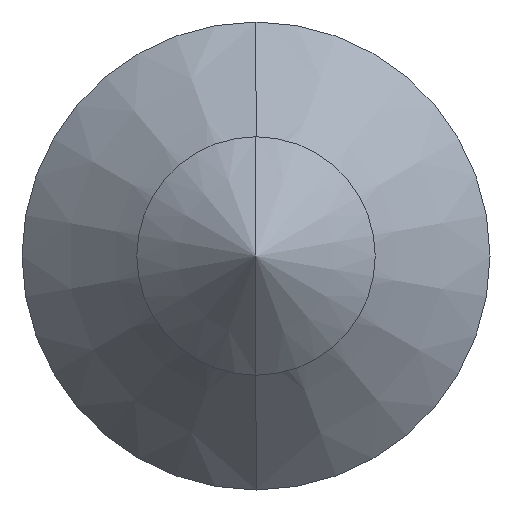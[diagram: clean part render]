
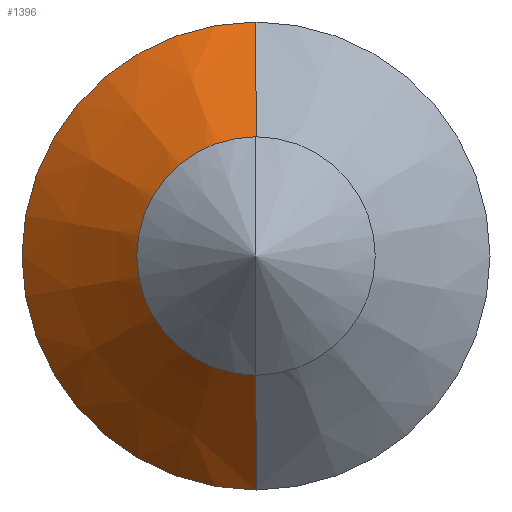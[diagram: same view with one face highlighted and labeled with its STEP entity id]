
A CAD part, left-side view. The second image highlights one B-rep face of the part: STEP entity #1396.
In plain terms, the highlighted conical face has half-angle 45 degrees and reference radius 2.1 mm.
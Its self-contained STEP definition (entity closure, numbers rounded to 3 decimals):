
#55 = CARTESIAN_POINT ( 'NONE',  ( -4.64, 0., 0. ) ) ;
#133 = CARTESIAN_POINT ( 'NONE',  ( -4.64, 0., -2.1 ) ) ;
#173 = CARTESIAN_POINT ( 'NONE',  ( -4.64, 0., 2.1 ) ) ;
#208 = LINE ( 'NONE', #844, #1471 ) ;
#299 = CONICAL_SURFACE ( 'NONE', #1695, 2.1, 0.785 ) ;
#314 = CIRCLE ( 'NONE', #1651, 2.1 ) ;
#331 = ORIENTED_EDGE ( 'NONE', *, *, #934, .F. ) ;
#351 = FACE_OUTER_BOUND ( 'NONE', #477, .T. ) ;
#354 = ORIENTED_EDGE ( 'NONE', *, *, #939, .T. ) ;
#370 = LINE ( 'NONE', #1555, #1198 ) ;
#378 = DIRECTION ( 'NONE',  ( 0., 0., -1. ) ) ;
#452 = VERTEX_POINT ( 'NONE', #1204 ) ;
#477 = EDGE_LOOP ( 'NONE', ( #1413, #1343, #354, #331 ) ) ;
#609 = CIRCLE ( 'NONE', #1634, 0.87 ) ;
#612 = DIRECTION ( 'NONE',  ( 0., 0., 1. ) ) ;
#623 = DIRECTION ( 'NONE',  ( -1., 0., 0. ) ) ;
#630 = CARTESIAN_POINT ( 'NONE',  ( -5.87, 0., 0. ) ) ;
#642 = CARTESIAN_POINT ( 'NONE',  ( -5.87, 0., 0.87 ) ) ;
#844 = CARTESIAN_POINT ( 'NONE',  ( -4.64, 0., 2.1 ) ) ;
#909 = DIRECTION ( 'NONE',  ( 0.707, 0., 0.707 ) ) ;
#934 = EDGE_CURVE ( 'NONE', #452, #1752, #370, .T. ) ;
#939 = EDGE_CURVE ( 'NONE', #1285, #1752, #314, .T. ) ;
#983 = EDGE_CURVE ( 'NONE', #1822, #1285, #208, .T. ) ;
#986 = EDGE_CURVE ( 'NONE', #1822, #452, #609, .T. ) ;
#1198 = VECTOR ( 'NONE', #1548, 1000. ) ;
#1204 = CARTESIAN_POINT ( 'NONE',  ( -5.87, 0., -0.87 ) ) ;
#1285 = VERTEX_POINT ( 'NONE', #173 ) ;
#1343 = ORIENTED_EDGE ( 'NONE', *, *, #983, .T. ) ;
#1396 = ADVANCED_FACE ( 'NONE', ( #351 ), #299, .T. ) ;
#1413 = ORIENTED_EDGE ( 'NONE', *, *, #986, .F. ) ;
#1417 = DIRECTION ( 'NONE',  ( 0., 0., 1. ) ) ;
#1425 = DIRECTION ( 'NONE',  ( -1., 0., 0. ) ) ;
#1430 = CARTESIAN_POINT ( 'NONE',  ( -4.64, 0., 0. ) ) ;
#1471 = VECTOR ( 'NONE', #909, 1000. ) ;
#1548 = DIRECTION ( 'NONE',  ( 0.707, 0., -0.707 ) ) ;
#1555 = CARTESIAN_POINT ( 'NONE',  ( -4.64, 0., -2.1 ) ) ;
#1634 = AXIS2_PLACEMENT_3D ( 'NONE', #630, #623, #612 ) ;
#1651 = AXIS2_PLACEMENT_3D ( 'NONE', #1430, #1425, #1417 ) ;
#1695 = AXIS2_PLACEMENT_3D ( 'NONE', #55, #1830, #378 ) ;
#1752 = VERTEX_POINT ( 'NONE', #133 ) ;
#1822 = VERTEX_POINT ( 'NONE', #642 ) ;
#1830 = DIRECTION ( 'NONE',  ( 1., 0., 0. ) ) ;
